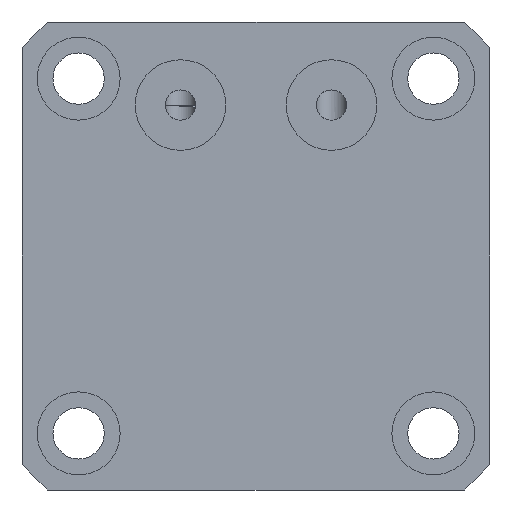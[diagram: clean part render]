
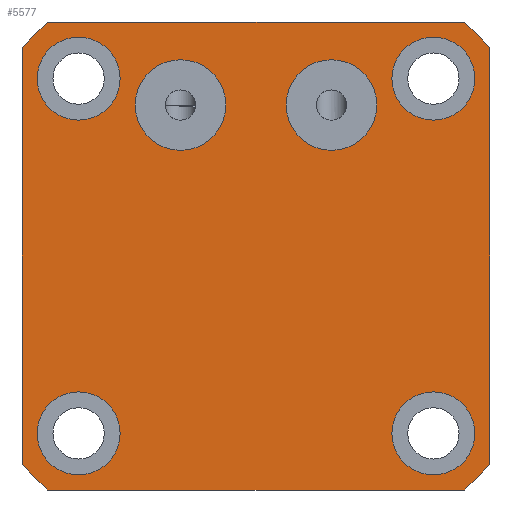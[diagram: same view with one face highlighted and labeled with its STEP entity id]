
A CAD part, left-side view. The second image highlights one B-rep face of the part: STEP entity #5577.
In plain terms, the highlighted planar face has unit normal (-1, 0, 0).
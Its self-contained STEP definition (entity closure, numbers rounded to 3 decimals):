
#3034=FACE_BOUND('',#6770,.T.);
#3035=FACE_BOUND('',#6771,.T.);
#3036=FACE_BOUND('',#6772,.T.);
#3037=FACE_BOUND('',#6773,.T.);
#3038=FACE_BOUND('',#6774,.T.);
#3039=FACE_BOUND('',#6775,.T.);
#3040=FACE_BOUND('',#6776,.T.);
#3181=LINE('',#27075,#4087);
#3185=LINE('',#28319,#4091);
#3187=LINE('',#28325,#4093);
#3188=LINE('',#28329,#4094);
#4087=VECTOR('',#14394,1.);
#4091=VECTOR('',#14568,1.);
#4093=VECTOR('',#14574,1.);
#4094=VECTOR('',#14577,1.);
#5080=PLANE('',#13741);
#5577=ADVANCED_FACE('',(#3034,#3035,#3036,#3037,#3038,#3039,#3040),#5080,
 .F.);
#6770=EDGE_LOOP('',(#8052,#8053,#8054,#8055,#8056,#8057,#8058,#8059));
#6771=EDGE_LOOP('',(#8060));
#6772=EDGE_LOOP('',(#8061));
#6773=EDGE_LOOP('',(#8062));
#6774=EDGE_LOOP('',(#8063));
#6775=EDGE_LOOP('',(#8064));
#6776=EDGE_LOOP('',(#8065));
#7295=CIRCLE('',#13654,6.);
#7297=CIRCLE('',#13657,6.);
#7299=CIRCLE('',#13660,5.5);
#7301=CIRCLE('',#13663,5.5);
#7303=CIRCLE('',#13666,5.5);
#7305=CIRCLE('',#13669,5.5);
#7341=CIRCLE('',#13737,41.5);
#7342=CIRCLE('',#13738,41.5);
#7343=CIRCLE('',#13739,41.5);
#7344=CIRCLE('',#13740,41.5);
#8052=ORIENTED_EDGE('',*,*,#11828,.F.);
#8053=ORIENTED_EDGE('',*,*,#11829,.F.);
#8054=ORIENTED_EDGE('',*,*,#11830,.F.);
#8055=ORIENTED_EDGE('',*,*,#11831,.F.);
#8056=ORIENTED_EDGE('',*,*,#11832,.F.);
#8057=ORIENTED_EDGE('',*,*,#11728,.F.);
#8058=ORIENTED_EDGE('',*,*,#11833,.F.);
#8059=ORIENTED_EDGE('',*,*,#11826,.F.);
#8060=ORIENTED_EDGE('',*,*,#11734,.F.);
#8061=ORIENTED_EDGE('',*,*,#11736,.F.);
#8062=ORIENTED_EDGE('',*,*,#11738,.F.);
#8063=ORIENTED_EDGE('',*,*,#11740,.F.);
#8064=ORIENTED_EDGE('',*,*,#11742,.F.);
#8065=ORIENTED_EDGE('',*,*,#11744,.F.);
#10611=VERTEX_POINT('',#27074);
#10612=VERTEX_POINT('',#27076);
#10617=VERTEX_POINT('',#27107);
#10619=VERTEX_POINT('',#27112);
#10621=VERTEX_POINT('',#27117);
#10623=VERTEX_POINT('',#27122);
#10625=VERTEX_POINT('',#27127);
#10627=VERTEX_POINT('',#27132);
#10700=VERTEX_POINT('',#28318);
#10701=VERTEX_POINT('',#28320);
#10702=VERTEX_POINT('',#28324);
#10703=VERTEX_POINT('',#28326);
#10704=VERTEX_POINT('',#28328);
#10705=VERTEX_POINT('',#28330);
#11728=EDGE_CURVE('',#10611,#10612,#3181,.T.);
#11734=EDGE_CURVE('',#10617,#10617,#7295,.T.);
#11736=EDGE_CURVE('',#10619,#10619,#7297,.T.);
#11738=EDGE_CURVE('',#10621,#10621,#7299,.T.);
#11740=EDGE_CURVE('',#10623,#10623,#7301,.T.);
#11742=EDGE_CURVE('',#10625,#10625,#7303,.T.);
#11744=EDGE_CURVE('',#10627,#10627,#7305,.T.);
#11826=EDGE_CURVE('',#10700,#10701,#3185,.T.);
#11828=EDGE_CURVE('',#10702,#10700,#7341,.T.);
#11829=EDGE_CURVE('',#10703,#10702,#3187,.T.);
#11830=EDGE_CURVE('',#10704,#10703,#7342,.T.);
#11831=EDGE_CURVE('',#10705,#10704,#3188,.T.);
#11832=EDGE_CURVE('',#10612,#10705,#7343,.T.);
#11833=EDGE_CURVE('',#10701,#10611,#7344,.T.);
#13654=AXIS2_PLACEMENT_3D('',#27106,#14402,#14403);
#13657=AXIS2_PLACEMENT_3D('',#27111,#14408,#14409);
#13660=AXIS2_PLACEMENT_3D('',#27116,#14414,#14415);
#13663=AXIS2_PLACEMENT_3D('',#27121,#14420,#14421);
#13666=AXIS2_PLACEMENT_3D('',#27126,#14426,#14427);
#13669=AXIS2_PLACEMENT_3D('',#27131,#14432,#14433);
#13737=AXIS2_PLACEMENT_3D('',#28323,#14572,#14573);
#13738=AXIS2_PLACEMENT_3D('',#28327,#14575,#14576);
#13739=AXIS2_PLACEMENT_3D('',#28331,#14578,#14579);
#13740=AXIS2_PLACEMENT_3D('',#28332,#14580,#14581);
#13741=AXIS2_PLACEMENT_3D('',#28333,#14582,#14583);
#14394=DIRECTION('',(0.,1.,0.));
#14402=DIRECTION('',(-1.,0.,0.));
#14403=DIRECTION('',(0.,0.,1.));
#14408=DIRECTION('',(-1.,0.,0.));
#14409=DIRECTION('',(0.,0.,1.));
#14414=DIRECTION('',(-1.,0.,0.));
#14415=DIRECTION('',(0.,0.,1.));
#14420=DIRECTION('',(-1.,0.,0.));
#14421=DIRECTION('',(0.,0.,1.));
#14426=DIRECTION('',(-1.,0.,0.));
#14427=DIRECTION('',(0.,0.,1.));
#14432=DIRECTION('',(-1.,0.,0.));
#14433=DIRECTION('',(0.,0.,1.));
#14568=DIRECTION('',(0.,0.,-1.));
#14572=DIRECTION('',(1.,0.,0.));
#14573=DIRECTION('',(0.,0.,-1.));
#14574=DIRECTION('',(0.,-1.,0.));
#14575=DIRECTION('',(1.,0.,0.));
#14576=DIRECTION('',(0.,0.,-1.));
#14577=DIRECTION('',(0.,0.,1.));
#14578=DIRECTION('',(1.,0.,0.));
#14579=DIRECTION('',(0.,0.,-1.));
#14580=DIRECTION('',(1.,0.,0.));
#14581=DIRECTION('',(0.,0.,-1.));
#14582=DIRECTION('',(1.,0.,0.));
#14583=DIRECTION('',(0.,0.,1.));
#27074=CARTESIAN_POINT('',(0.,3.409,-62.));
#27075=CARTESIAN_POINT('',(0.,31.,-62.));
#27076=CARTESIAN_POINT('',(0.,58.591,-62.));
#27106=CARTESIAN_POINT('',(0.,41.,-11.));
#27107=CARTESIAN_POINT('',(0.,41.,-5.));
#27111=CARTESIAN_POINT('',(0.,21.,-11.));
#27112=CARTESIAN_POINT('',(0.,21.,-5.));
#27116=CARTESIAN_POINT('',(0.,7.5,-54.5));
#27117=CARTESIAN_POINT('',(0.,7.5,-49.));
#27121=CARTESIAN_POINT('',(0.,7.5,-7.5));
#27122=CARTESIAN_POINT('',(0.,7.5,-2.));
#27126=CARTESIAN_POINT('',(0.,54.5,-7.5));
#27127=CARTESIAN_POINT('',(0.,54.5,-2.));
#27131=CARTESIAN_POINT('',(0.,54.5,-54.5));
#27132=CARTESIAN_POINT('',(0.,54.5,-49.));
#28318=CARTESIAN_POINT('',(0.,0.,-3.409));
#28319=CARTESIAN_POINT('',(0.,0.,-6.));
#28320=CARTESIAN_POINT('',(0.,0.,-58.591));
#28323=CARTESIAN_POINT('',(0.,31.,-31.));
#28324=CARTESIAN_POINT('',(0.,3.409,0.));
#28325=CARTESIAN_POINT('',(0.,31.,0.));
#28326=CARTESIAN_POINT('',(0.,58.591,0.));
#28327=CARTESIAN_POINT('',(0.,31.,-31.));
#28328=CARTESIAN_POINT('',(0.,62.,-3.409));
#28329=CARTESIAN_POINT('',(0.,62.,-31.));
#28330=CARTESIAN_POINT('',(0.,62.,-58.591));
#28331=CARTESIAN_POINT('',(0.,31.,-31.));
#28332=CARTESIAN_POINT('',(0.,31.,-31.));
#28333=CARTESIAN_POINT('',(0.,31.,-31.));
